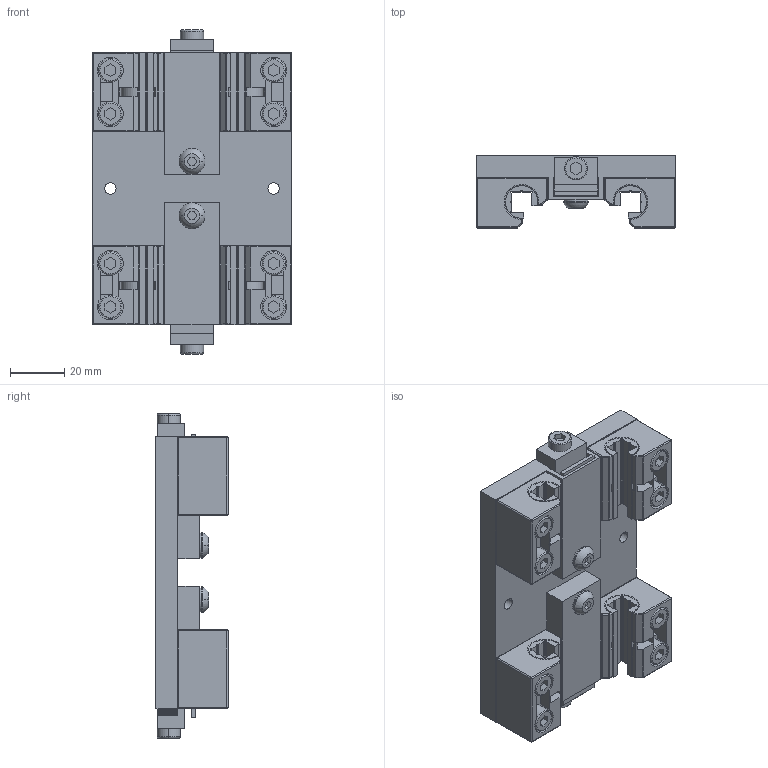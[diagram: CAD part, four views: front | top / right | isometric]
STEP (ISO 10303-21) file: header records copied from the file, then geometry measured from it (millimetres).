
FILE_DESCRIPTION((''),'2;1');
FILE_NAME('L4CB0004_510001410','2007-07-02T',('MS16935'),(''),'PRO/ENGINEER BY PARAMETRIC TECHNOLOGY CORPORATION, 2005170','PRO/ENGINEER BY PARAMETRIC TECHNOLOGY CORPORATION, 2005170','');
FILE_SCHEMA(('AUTOMOTIVE_DESIGN_CC2 { 1 2 10303 214 -1 1 5 2 }'));
Length unit declared in the file: millimetre
Products named in the file (1): L4CB0004_510001410
Bounding box: 73 x 26.5 x 119.1 mm (x, y, z)
Volume: 107858.3 mm3; surface area: 42136.1 mm2
Topology: 1 solids, 1 shells, 899 faces, 2148 edges, 1282 vertices
Faces by surface type: cylinder 373, plane 346, sphere 80, torus 78, cone 22
Entity records: 38843 total; most frequent: CARTESIAN_POINT 4998, DIRECTION 4758, ORIENTED_EDGE 4296, PRESENTATION_STYLE_ASSIGNMENT 2979, STYLED_ITEM 2155, CURVE_STYLE 2148, EDGE_CURVE 2148, AXIS2_PLACEMENT_3D 1747
